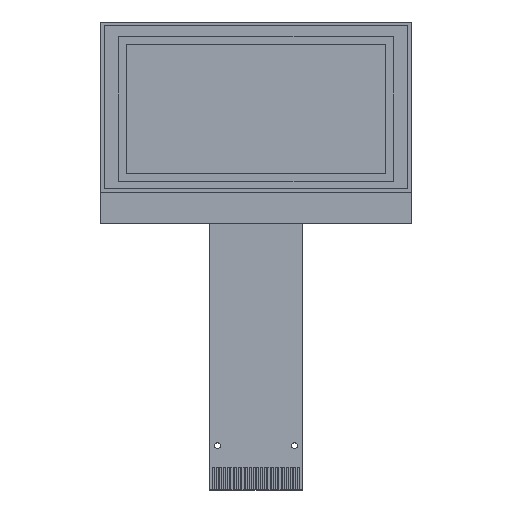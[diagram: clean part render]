
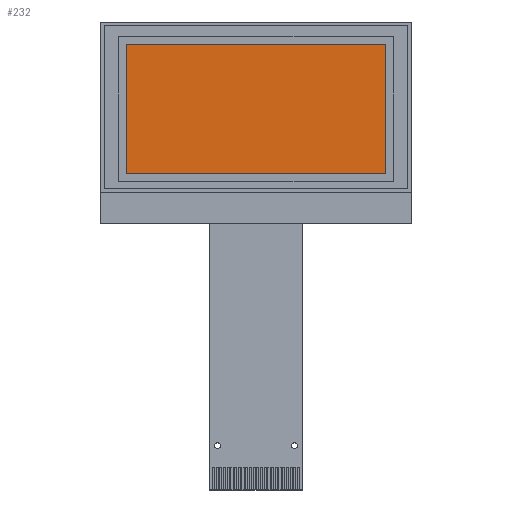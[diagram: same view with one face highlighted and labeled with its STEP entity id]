
A CAD part, top view. The second image highlights one B-rep face of the part: STEP entity #232.
In plain terms, the highlighted planar face has unit normal (0, 0, 1).
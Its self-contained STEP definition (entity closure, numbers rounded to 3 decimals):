
#93 = LINE ( 'NONE', #5798, #4567 ) ;
#232 = ADVANCED_FACE ( 'NONE', ( #2854 ), #1370, .T. ) ;
#240 = CARTESIAN_POINT ( 'NONE',  ( 17.525, 8.755, 1.45 ) ) ;
#292 = DIRECTION ( 'NONE',  ( 0., 1., 0. ) ) ;
#550 = CARTESIAN_POINT ( 'NONE',  ( -17.525, -8.755, 1.45 ) ) ;
#836 = DIRECTION ( 'NONE',  ( 1., 0., 0. ) ) ;
#962 = CARTESIAN_POINT ( 'NONE',  ( 0., 8.755, 1.45 ) ) ;
#1074 = AXIS2_PLACEMENT_3D ( 'NONE', #2326, #5454, #836 ) ;
#1138 = DIRECTION ( 'NONE',  ( 0., -1., 0. ) ) ;
#1253 = VERTEX_POINT ( 'NONE', #550 ) ;
#1370 = PLANE ( 'NONE',  #1074 ) ;
#1493 = DIRECTION ( 'NONE',  ( 1., 0., 0. ) ) ;
#1494 = CARTESIAN_POINT ( 'NONE',  ( -17.525, 0., 1.45 ) ) ;
#1685 = EDGE_CURVE ( 'NONE', #1253, #1839, #5051, .T. ) ;
#1815 = CARTESIAN_POINT ( 'NONE',  ( -17.525, 8.755, 1.45 ) ) ;
#1826 = CARTESIAN_POINT ( 'NONE',  ( 17.525, -8.755, 1.45 ) ) ;
#1839 = VERTEX_POINT ( 'NONE', #1815 ) ;
#2067 = EDGE_CURVE ( 'NONE', #1839, #6305, #5225, .T. ) ;
#2326 = CARTESIAN_POINT ( 'NONE',  ( 0., 0., 1.45 ) ) ;
#2389 = ORIENTED_EDGE ( 'NONE', *, *, #6552, .F. ) ;
#2396 = CARTESIAN_POINT ( 'NONE',  ( 0., -8.755, 1.45 ) ) ;
#2833 = EDGE_CURVE ( 'NONE', #3537, #1253, #3927, .T. ) ;
#2854 = FACE_OUTER_BOUND ( 'NONE', #5288, .T. ) ;
#2931 = DIRECTION ( 'NONE',  ( -1., 0., 0. ) ) ;
#2970 = VECTOR ( 'NONE', #2931, 1000. ) ;
#3242 = ORIENTED_EDGE ( 'NONE', *, *, #1685, .F. ) ;
#3537 = VERTEX_POINT ( 'NONE', #1826 ) ;
#3927 = LINE ( 'NONE', #2396, #2970 ) ;
#4567 = VECTOR ( 'NONE', #1138, 1000. ) ;
#4622 = ORIENTED_EDGE ( 'NONE', *, *, #2067, .F. ) ;
#5051 = LINE ( 'NONE', #1494, #6109 ) ;
#5225 = LINE ( 'NONE', #962, #5946 ) ;
#5288 = EDGE_LOOP ( 'NONE', ( #3242, #6234, #2389, #4622 ) ) ;
#5454 = DIRECTION ( 'NONE',  ( 0., 0., 1. ) ) ;
#5798 = CARTESIAN_POINT ( 'NONE',  ( 17.525, 0., 1.45 ) ) ;
#5946 = VECTOR ( 'NONE', #1493, 1000. ) ;
#6109 = VECTOR ( 'NONE', #292, 1000. ) ;
#6234 = ORIENTED_EDGE ( 'NONE', *, *, #2833, .F. ) ;
#6305 = VERTEX_POINT ( 'NONE', #240 ) ;
#6552 = EDGE_CURVE ( 'NONE', #6305, #3537, #93, .T. ) ;
